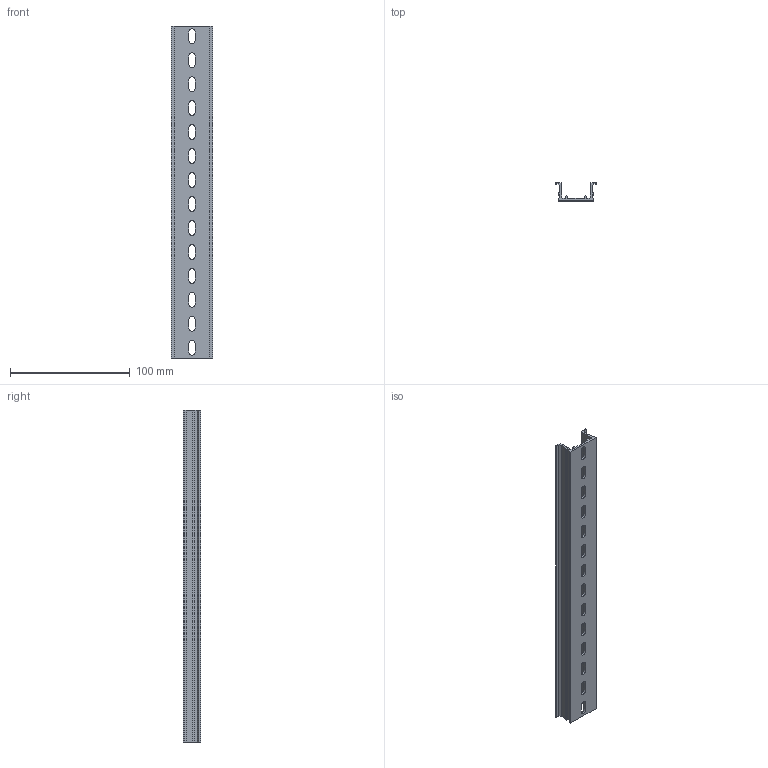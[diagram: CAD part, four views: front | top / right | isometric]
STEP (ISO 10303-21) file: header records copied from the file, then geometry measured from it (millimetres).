
FILE_DESCRIPTION(/* description */ (''),/* implementation_level */ '2;1');
FILE_NAME(/* name */ '22649-(TKB KD-14)HP 3D.stp',/* time_stamp */ '2024-12-05T13:41:08+09:00',/* author */ ('usercadg104'),/* organization */ (''),/* preprocessor_version */ 'ST-DEVELOPER v19.2',/* originating_system */ 'Autodesk Inventor 2023',/* authorisation */ '');
FILE_SCHEMA (('CONFIG_CONTROL_DESIGN'));
Length unit declared in the file: millimetre
Products named in the file (1): TKB KD-3(林)
Bounding box: 35 x 15 x 277 mm (x, y, z)
Volume: 32397.4 mm3; surface area: 37577.1 mm2
Topology: 1 solids, 1 shells, 96 faces, 282 edges, 188 vertices
Faces by surface type: plane 64, cylinder 32
Entity records: 3289 total; most frequent: CARTESIAN_POINT 567, ORIENTED_EDGE 564, DIRECTION 540, EDGE_CURVE 282, LINE 218, VECTOR 218, VERTEX_POINT 188, AXIS2_PLACEMENT_3D 161
